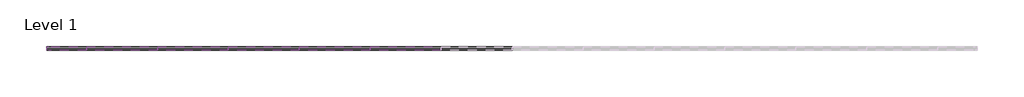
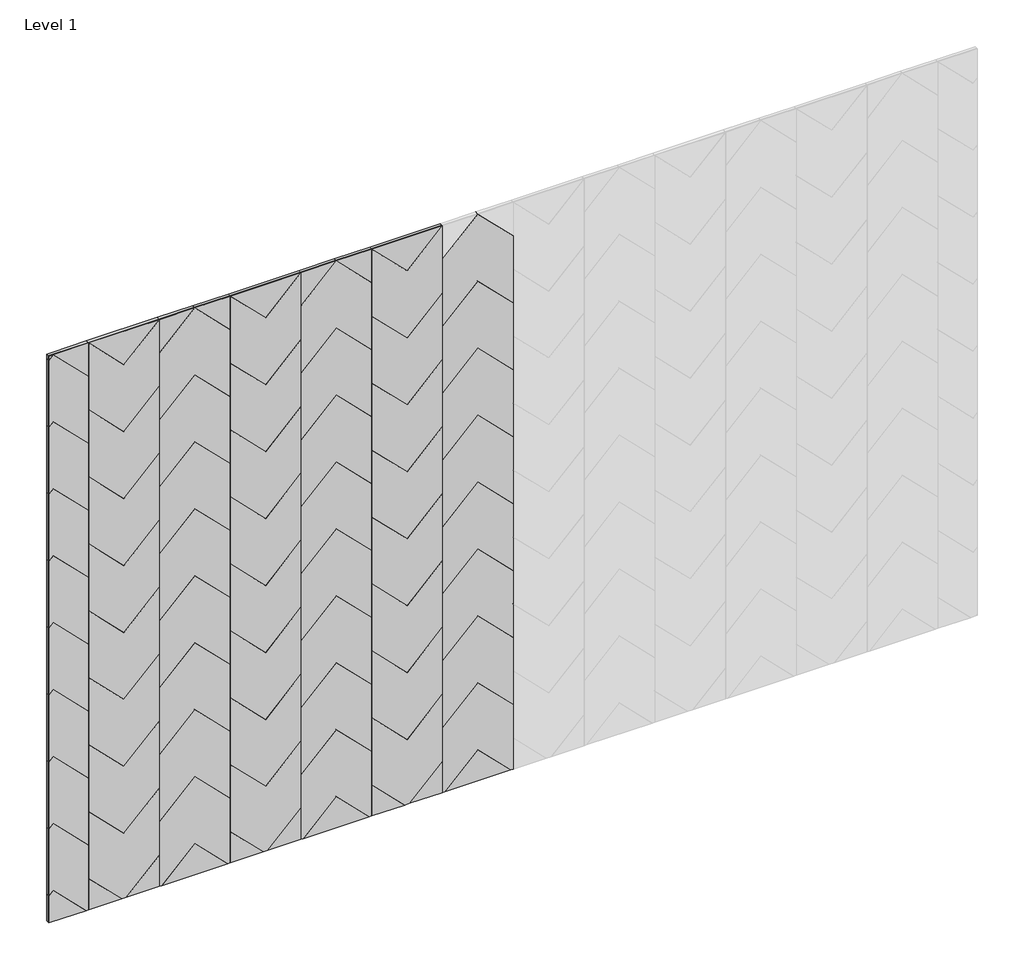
# One storey, part 1 of 2: 69 proxies.
"""IFC4 building model written with IfcOpenShell, lengths in millimetres."""

from ifc_helpers import new_model, si_unit, origin, place, context, project, spatial, transform, mapped, element, save
from components import dart_block_c844b8d5, dart_block_f40f4385, dart_block_8b6eca5b, dart_block_9fc4d5a6, dart_block_84291ee9, dart_block_d6e125e5, dart_block_31c125ed, dart_block_6d389e56, dart_block_7aee04b3, dart_block_84e837c1, dart_block_a08385c4

model = new_model("IFC4")

# Units and contexts
model_context = context("Model", 3, world=origin())
ifc_project = project(units=[si_unit("LENGTHUNIT", "METRE", prefix="MILLI")], contexts=[model_context])

# Site, building, storey
site = spatial("IfcSite", under=ifc_project)
building = spatial("IfcBuilding", under=site)
storey = spatial("IfcBuildingStorey", under=building, Name="Level 1", Elevation=0.0)

# Proxies
placement = place(None, origin())
dart_block_shape = dart_block_c844b8d5(model_context)
element("IfcBuildingElementProxy", 1, Name="FilzFelt_Dart_Block : Dart Block", ObjectType="FilzFelt_Dart_Block : Dart Block", at=placement, inside=storey, context=model_context, shape_type="MappedRepresentation", body=[
    mapped(dart_block_shape, transform((5246.9916002, -10315.1339335, 2763.5), x_axis=(1.0, 0.0, 0.0), y_axis=(0.0, 0.0, 1.0), z_axis=(0.0, -1.0, 0.0))),
])
dart_block_2_shape = dart_block_f40f4385(model_context)
element("IfcBuildingElementProxy", 2, Name="FilzFelt_Dart_Block : Dart Block", ObjectType="FilzFelt_Dart_Block : Dart Block", at=placement, inside=storey, context=model_context, shape_type="MappedRepresentation", body=[
    mapped(dart_block_2_shape, transform((5246.9916002, -10315.1339335, 2509.5), x_axis=(1.0, 0.0, 0.0), y_axis=(0.0, 0.0, 1.0), z_axis=(0.0, -1.0, 0.0))),
])
element("IfcBuildingElementProxy", 3, Name="FilzFelt_Dart_Block : Dart Block", ObjectType="FilzFelt_Dart_Block : Dart Block", at=placement, inside=storey, context=model_context, shape_type="MappedRepresentation", body=[
    mapped(dart_block_2_shape, transform((5246.9916002, -10315.1339335, 2001.5), x_axis=(1.0, 0.0, 0.0), y_axis=(0.0, 0.0, 1.0), z_axis=(0.0, -1.0, 0.0))),
])
element("IfcBuildingElementProxy", 4, Name="FilzFelt_Dart_Block : Dart Block", ObjectType="FilzFelt_Dart_Block : Dart Block", at=placement, inside=storey, context=model_context, shape_type="MappedRepresentation", body=[
    mapped(dart_block_2_shape, transform((5246.9916002, -10315.1339335, 2255.5), x_axis=(1.0, 0.0, 0.0), y_axis=(0.0, 0.0, 1.0), z_axis=(0.0, -1.0, 0.0))),
])
element("IfcBuildingElementProxy", 5, Name="FilzFelt_Dart_Block : Dart Block", ObjectType="FilzFelt_Dart_Block : Dart Block", at=placement, inside=storey, context=model_context, shape_type="MappedRepresentation", body=[
    mapped(dart_block_2_shape, transform((5246.9916002, -10315.1339335, 1493.5), x_axis=(1.0, 0.0, 0.0), y_axis=(0.0, 0.0, 1.0), z_axis=(0.0, -1.0, 0.0))),
])
element("IfcBuildingElementProxy", 6, Name="FilzFelt_Dart_Block : Dart Block", ObjectType="FilzFelt_Dart_Block : Dart Block", at=placement, inside=storey, context=model_context, shape_type="MappedRepresentation", body=[
    mapped(dart_block_2_shape, transform((5246.9916002, -10315.1339335, 985.5), x_axis=(1.0, 0.0, 0.0), y_axis=(0.0, 0.0, 1.0), z_axis=(0.0, -1.0, 0.0))),
])
element("IfcBuildingElementProxy", 7, Name="FilzFelt_Dart_Block : Dart Block", ObjectType="FilzFelt_Dart_Block : Dart Block", at=placement, inside=storey, context=model_context, shape_type="MappedRepresentation", body=[
    mapped(dart_block_2_shape, transform((5246.9916002, -10315.1339335, 1747.5), x_axis=(1.0, 0.0, 0.0), y_axis=(0.0, 0.0, 1.0), z_axis=(0.0, -1.0, 0.0))),
])
element("IfcBuildingElementProxy", 8, Name="FilzFelt_Dart_Block : Dart Block", ObjectType="FilzFelt_Dart_Block : Dart Block", at=placement, inside=storey, context=model_context, shape_type="MappedRepresentation", body=[
    mapped(dart_block_2_shape, transform((5246.9916002, -10315.1339335, 1239.5), x_axis=(1.0, 0.0, 0.0), y_axis=(0.0, 0.0, 1.0), z_axis=(0.0, -1.0, 0.0))),
])
dart_block_3_shape = dart_block_8b6eca5b(model_context)
element("IfcBuildingElementProxy", 9, Name="FilzFelt_Dart_Block : Dart Block", ObjectType="FilzFelt_Dart_Block : Dart Block", at=placement, inside=storey, context=model_context, shape_type="MappedRepresentation", body=[
    mapped(dart_block_3_shape, transform((5246.9916002, -10315.1339335, 731.5), x_axis=(1.0, 0.0, 0.0), y_axis=(0.0, 0.0, 1.0), z_axis=(0.0, -1.0, 0.0))),
])
dart_block_4_shape = dart_block_9fc4d5a6(model_context)
element("IfcBuildingElementProxy", 10, Name="FilzFelt_Dart_Block : Dart Block", ObjectType="FilzFelt_Dart_Block : Dart Block", at=placement, inside=storey, context=model_context, shape_type="MappedRepresentation", body=[
    mapped(dart_block_4_shape, transform((5246.9916002, -10315.1339335, 477.5), x_axis=(1.0, 0.0, 0.0), y_axis=(0.0, 0.0, 1.0), z_axis=(0.0, -1.0, 0.0))),
])
dart_block_5_shape = dart_block_84291ee9(model_context)
element("IfcBuildingElementProxy", 11, Name="FilzFelt_Dart_Block : Dart Block", ObjectType="FilzFelt_Dart_Block : Dart Block", at=placement, inside=storey, context=model_context, shape_type="MappedRepresentation", body=[
    mapped(dart_block_5_shape, transform((5500.9916002, -10315.1339335, 477.5), x_axis=(-1.0, 0.0, 0.0), y_axis=(0.0, 0.0, -1.0), z_axis=(0.0, -1.0, 0.0))),
])
dart_block_6_shape = dart_block_d6e125e5(model_context)
element("IfcBuildingElementProxy", 12, Name="FilzFelt_Dart_Block : Dart Block", ObjectType="FilzFelt_Dart_Block : Dart Block", at=placement, inside=storey, context=model_context, shape_type="MappedRepresentation", body=[
    mapped(dart_block_6_shape, transform((5500.9916002, -10315.1339335, 731.5), x_axis=(-1.0, 0.0, 0.0), y_axis=(0.0, 0.0, -1.0), z_axis=(0.0, -1.0, 0.0))),
])
element("IfcBuildingElementProxy", 13, Name="FilzFelt_Dart_Block : Dart Block", ObjectType="FilzFelt_Dart_Block : Dart Block", at=placement, inside=storey, context=model_context, shape_type="MappedRepresentation", body=[
    mapped(dart_block_6_shape, transform((6516.9916002, -10315.1339335, 731.5), x_axis=(-1.0, 0.0, 0.0), y_axis=(0.0, 0.0, -1.0), z_axis=(0.0, -1.0, 0.0))),
])
dart_block_7_shape = dart_block_31c125ed(model_context)
element("IfcBuildingElementProxy", 14, Name="FilzFelt_Dart_Block : Dart Block", ObjectType="FilzFelt_Dart_Block : Dart Block", at=placement, inside=storey, context=model_context, shape_type="MappedRepresentation", body=[
    mapped(dart_block_7_shape, transform((5500.9916002, -10315.1339335, 985.5), x_axis=(-1.0, 0.0, 0.0), y_axis=(0.0, 0.0, -1.0), z_axis=(0.0, -1.0, 0.0))),
])
element("IfcBuildingElementProxy", 15, Name="FilzFelt_Dart_Block : Dart Block", ObjectType="FilzFelt_Dart_Block : Dart Block", at=placement, inside=storey, context=model_context, shape_type="MappedRepresentation", body=[
    mapped(dart_block_7_shape, transform((5500.9916002, -10315.1339335, 1493.5), x_axis=(-1.0, 0.0, 0.0), y_axis=(0.0, 0.0, -1.0), z_axis=(0.0, -1.0, 0.0))),
])
element("IfcBuildingElementProxy", 16, Name="FilzFelt_Dart_Block : Dart Block", ObjectType="FilzFelt_Dart_Block : Dart Block", at=placement, inside=storey, context=model_context, shape_type="MappedRepresentation", body=[
    mapped(dart_block_7_shape, transform((5500.9916002, -10315.1339335, 2001.5), x_axis=(-1.0, 0.0, 0.0), y_axis=(0.0, 0.0, -1.0), z_axis=(0.0, -1.0, 0.0))),
])
element("IfcBuildingElementProxy", 17, Name="FilzFelt_Dart_Block : Dart Block", ObjectType="FilzFelt_Dart_Block : Dart Block", at=placement, inside=storey, context=model_context, shape_type="MappedRepresentation", body=[
    mapped(dart_block_7_shape, transform((5754.9916002, -10315.1339335, 2509.5), x_axis=(1.0, 0.0, 0.0), y_axis=(0.0, 0.0, 1.0), z_axis=(0.0, -1.0, 0.0))),
])
element("IfcBuildingElementProxy", 18, Name="FilzFelt_Dart_Block : Dart Block", ObjectType="FilzFelt_Dart_Block : Dart Block", at=placement, inside=storey, context=model_context, shape_type="MappedRepresentation", body=[
    mapped(dart_block_7_shape, transform((5754.9916002, -10315.1339335, 1747.5), x_axis=(1.0, 0.0, 0.0), y_axis=(0.0, 0.0, 1.0), z_axis=(0.0, -1.0, 0.0))),
])
element("IfcBuildingElementProxy", 19, Name="FilzFelt_Dart_Block : Dart Block", ObjectType="FilzFelt_Dart_Block : Dart Block", at=placement, inside=storey, context=model_context, shape_type="MappedRepresentation", body=[
    mapped(dart_block_7_shape, transform((5754.9916002, -10315.1339335, 985.5), x_axis=(1.0, 0.0, 0.0), y_axis=(0.0, 0.0, 1.0), z_axis=(0.0, -1.0, 0.0))),
])
element("IfcBuildingElementProxy", 20, Name="FilzFelt_Dart_Block : Dart Block", ObjectType="FilzFelt_Dart_Block : Dart Block", at=placement, inside=storey, context=model_context, shape_type="MappedRepresentation", body=[
    mapped(dart_block_7_shape, transform((6008.9916002, -10315.1339335, 1239.5), x_axis=(-1.0, 0.0, 0.0), y_axis=(0.0, 0.0, -1.0), z_axis=(0.0, -1.0, 0.0))),
])
element("IfcBuildingElementProxy", 21, Name="FilzFelt_Dart_Block : Dart Block", ObjectType="FilzFelt_Dart_Block : Dart Block", at=placement, inside=storey, context=model_context, shape_type="MappedRepresentation", body=[
    mapped(dart_block_7_shape, transform((6008.9916002, -10315.1339335, 1747.5), x_axis=(-1.0, 0.0, 0.0), y_axis=(0.0, 0.0, -1.0), z_axis=(0.0, -1.0, 0.0))),
])
element("IfcBuildingElementProxy", 22, Name="FilzFelt_Dart_Block : Dart Block", ObjectType="FilzFelt_Dart_Block : Dart Block", at=placement, inside=storey, context=model_context, shape_type="MappedRepresentation", body=[
    mapped(dart_block_7_shape, transform((6008.9916002, -10315.1339335, 2509.5), x_axis=(-1.0, 0.0, 0.0), y_axis=(0.0, 0.0, -1.0), z_axis=(0.0, -1.0, 0.0))),
])
element("IfcBuildingElementProxy", 23, Name="FilzFelt_Dart_Block : Dart Block", ObjectType="FilzFelt_Dart_Block : Dart Block", at=placement, inside=storey, context=model_context, shape_type="MappedRepresentation", body=[
    mapped(dart_block_7_shape, transform((6262.9916002, -10315.1339335, 2255.5), x_axis=(1.0, 0.0, 0.0), y_axis=(0.0, 0.0, 1.0), z_axis=(0.0, -1.0, 0.0))),
])
element("IfcBuildingElementProxy", 24, Name="FilzFelt_Dart_Block : Dart Block", ObjectType="FilzFelt_Dart_Block : Dart Block", at=placement, inside=storey, context=model_context, shape_type="MappedRepresentation", body=[
    mapped(dart_block_7_shape, transform((6262.9916002, -10315.1339335, 1493.5), x_axis=(1.0, 0.0, 0.0), y_axis=(0.0, 0.0, 1.0), z_axis=(0.0, -1.0, 0.0))),
])
element("IfcBuildingElementProxy", 25, Name="FilzFelt_Dart_Block : Dart Block", ObjectType="FilzFelt_Dart_Block : Dart Block", at=placement, inside=storey, context=model_context, shape_type="MappedRepresentation", body=[
    mapped(dart_block_7_shape, transform((6262.9916002, -10315.1339335, 985.5), x_axis=(1.0, 0.0, 0.0), y_axis=(0.0, 0.0, 1.0), z_axis=(0.0, -1.0, 0.0))),
])
element("IfcBuildingElementProxy", 26, Name="FilzFelt_Dart_Block : Dart Block", ObjectType="FilzFelt_Dart_Block : Dart Block", at=placement, inside=storey, context=model_context, shape_type="MappedRepresentation", body=[
    mapped(dart_block_7_shape, transform((6516.9916002, -10315.1339335, 2509.5), x_axis=(-1.0, 0.0, 0.0), y_axis=(0.0, 0.0, -1.0), z_axis=(0.0, -1.0, 0.0))),
])
element("IfcBuildingElementProxy", 27, Name="FilzFelt_Dart_Block : Dart Block", ObjectType="FilzFelt_Dart_Block : Dart Block", at=placement, inside=storey, context=model_context, shape_type="MappedRepresentation", body=[
    mapped(dart_block_7_shape, transform((6516.9916002, -10315.1339335, 985.5), x_axis=(-1.0, 0.0, 0.0), y_axis=(0.0, 0.0, -1.0), z_axis=(0.0, -1.0, 0.0))),
])
element("IfcBuildingElementProxy", 28, Name="FilzFelt_Dart_Block : Dart Block", ObjectType="FilzFelt_Dart_Block : Dart Block", at=placement, inside=storey, context=model_context, shape_type="MappedRepresentation", body=[
    mapped(dart_block_7_shape, transform((6516.9916002, -10315.1339335, 1747.5), x_axis=(-1.0, 0.0, 0.0), y_axis=(0.0, 0.0, -1.0), z_axis=(0.0, -1.0, 0.0))),
])
element("IfcBuildingElementProxy", 29, Name="FilzFelt_Dart_Block : Dart Block", ObjectType="FilzFelt_Dart_Block : Dart Block", at=placement, inside=storey, context=model_context, shape_type="MappedRepresentation", body=[
    mapped(dart_block_7_shape, transform((6770.9916002, -10315.1339335, 1747.5), x_axis=(1.0, 0.0, 0.0), y_axis=(0.0, 0.0, 1.0), z_axis=(0.0, -1.0, 0.0))),
])
element("IfcBuildingElementProxy", 30, Name="FilzFelt_Dart_Block : Dart Block", ObjectType="FilzFelt_Dart_Block : Dart Block", at=placement, inside=storey, context=model_context, shape_type="MappedRepresentation", body=[
    mapped(dart_block_7_shape, transform((6770.9916002, -10315.1339335, 1239.5), x_axis=(1.0, 0.0, 0.0), y_axis=(0.0, 0.0, 1.0), z_axis=(0.0, -1.0, 0.0))),
])
element("IfcBuildingElementProxy", 31, Name="FilzFelt_Dart_Block : Dart Block", ObjectType="FilzFelt_Dart_Block : Dart Block", at=placement, inside=storey, context=model_context, shape_type="MappedRepresentation", body=[
    mapped(dart_block_7_shape, transform((5500.9916002, -10315.1339335, 1239.5), x_axis=(-1.0, 0.0, 0.0), y_axis=(0.0, 0.0, -1.0), z_axis=(0.0, -1.0, 0.0))),
])
element("IfcBuildingElementProxy", 32, Name="FilzFelt_Dart_Block : Dart Block", ObjectType="FilzFelt_Dart_Block : Dart Block", at=placement, inside=storey, context=model_context, shape_type="MappedRepresentation", body=[
    mapped(dart_block_7_shape, transform((5500.9916002, -10315.1339335, 1747.5), x_axis=(-1.0, 0.0, 0.0), y_axis=(0.0, 0.0, -1.0), z_axis=(0.0, -1.0, 0.0))),
])
element("IfcBuildingElementProxy", 33, Name="FilzFelt_Dart_Block : Dart Block", ObjectType="FilzFelt_Dart_Block : Dart Block", at=placement, inside=storey, context=model_context, shape_type="MappedRepresentation", body=[
    mapped(dart_block_7_shape, transform((5500.9916002, -10315.1339335, 2255.5), x_axis=(-1.0, 0.0, 0.0), y_axis=(0.0, 0.0, -1.0), z_axis=(0.0, -1.0, 0.0))),
])
element("IfcBuildingElementProxy", 34, Name="FilzFelt_Dart_Block : Dart Block", ObjectType="FilzFelt_Dart_Block : Dart Block", at=placement, inside=storey, context=model_context, shape_type="MappedRepresentation", body=[
    mapped(dart_block_7_shape, transform((5754.9916002, -10315.1339335, 2255.5), x_axis=(1.0, 0.0, 0.0), y_axis=(0.0, 0.0, 1.0), z_axis=(0.0, -1.0, 0.0))),
])
element("IfcBuildingElementProxy", 35, Name="FilzFelt_Dart_Block : Dart Block", ObjectType="FilzFelt_Dart_Block : Dart Block", at=placement, inside=storey, context=model_context, shape_type="MappedRepresentation", body=[
    mapped(dart_block_7_shape, transform((5754.9916002, -10315.1339335, 1239.5), x_axis=(1.0, 0.0, 0.0), y_axis=(0.0, 0.0, 1.0), z_axis=(0.0, -1.0, 0.0))),
])
element("IfcBuildingElementProxy", 36, Name="FilzFelt_Dart_Block : Dart Block", ObjectType="FilzFelt_Dart_Block : Dart Block", at=placement, inside=storey, context=model_context, shape_type="MappedRepresentation", body=[
    mapped(dart_block_7_shape, transform((6008.9916002, -10315.1339335, 1493.5), x_axis=(-1.0, 0.0, 0.0), y_axis=(0.0, 0.0, -1.0), z_axis=(0.0, -1.0, 0.0))),
])
element("IfcBuildingElementProxy", 37, Name="FilzFelt_Dart_Block : Dart Block", ObjectType="FilzFelt_Dart_Block : Dart Block", at=placement, inside=storey, context=model_context, shape_type="MappedRepresentation", body=[
    mapped(dart_block_7_shape, transform((6008.9916002, -10315.1339335, 2001.5), x_axis=(-1.0, 0.0, 0.0), y_axis=(0.0, 0.0, -1.0), z_axis=(0.0, -1.0, 0.0))),
])
element("IfcBuildingElementProxy", 38, Name="FilzFelt_Dart_Block : Dart Block", ObjectType="FilzFelt_Dart_Block : Dart Block", at=placement, inside=storey, context=model_context, shape_type="MappedRepresentation", body=[
    mapped(dart_block_7_shape, transform((6262.9916002, -10315.1339335, 2001.5), x_axis=(1.0, 0.0, 0.0), y_axis=(0.0, 0.0, 1.0), z_axis=(0.0, -1.0, 0.0))),
])
element("IfcBuildingElementProxy", 39, Name="FilzFelt_Dart_Block : Dart Block", ObjectType="FilzFelt_Dart_Block : Dart Block", at=placement, inside=storey, context=model_context, shape_type="MappedRepresentation", body=[
    mapped(dart_block_7_shape, transform((6262.9916002, -10315.1339335, 1239.5), x_axis=(1.0, 0.0, 0.0), y_axis=(0.0, 0.0, 1.0), z_axis=(0.0, -1.0, 0.0))),
])
element("IfcBuildingElementProxy", 40, Name="FilzFelt_Dart_Block : Dart Block", ObjectType="FilzFelt_Dart_Block : Dart Block", at=placement, inside=storey, context=model_context, shape_type="MappedRepresentation", body=[
    mapped(dart_block_7_shape, transform((6516.9916002, -10315.1339335, 1493.5), x_axis=(-1.0, 0.0, 0.0), y_axis=(0.0, 0.0, -1.0), z_axis=(0.0, -1.0, 0.0))),
])
element("IfcBuildingElementProxy", 41, Name="FilzFelt_Dart_Block : Dart Block", ObjectType="FilzFelt_Dart_Block : Dart Block", at=placement, inside=storey, context=model_context, shape_type="MappedRepresentation", body=[
    mapped(dart_block_7_shape, transform((6516.9916002, -10315.1339335, 2255.5), x_axis=(-1.0, 0.0, 0.0), y_axis=(0.0, 0.0, -1.0), z_axis=(0.0, -1.0, 0.0))),
])
element("IfcBuildingElementProxy", 42, Name="FilzFelt_Dart_Block : Dart Block", ObjectType="FilzFelt_Dart_Block : Dart Block", at=placement, inside=storey, context=model_context, shape_type="MappedRepresentation", body=[
    mapped(dart_block_7_shape, transform((6770.9916002, -10315.1339335, 2255.5), x_axis=(1.0, 0.0, 0.0), y_axis=(0.0, 0.0, 1.0), z_axis=(0.0, -1.0, 0.0))),
])
element("IfcBuildingElementProxy", 43, Name="FilzFelt_Dart_Block : Dart Block", ObjectType="FilzFelt_Dart_Block : Dart Block", at=placement, inside=storey, context=model_context, shape_type="MappedRepresentation", body=[
    mapped(dart_block_7_shape, transform((6770.9916002, -10315.1339335, 1493.5), x_axis=(1.0, 0.0, 0.0), y_axis=(0.0, 0.0, 1.0), z_axis=(0.0, -1.0, 0.0))),
])
element("IfcBuildingElementProxy", 44, Name="FilzFelt_Dart_Block : Dart Block", ObjectType="FilzFelt_Dart_Block : Dart Block", at=placement, inside=storey, context=model_context, shape_type="MappedRepresentation", body=[
    mapped(dart_block_7_shape, transform((5500.9916002, -10315.1339335, 2509.5), x_axis=(-1.0, 0.0, 0.0), y_axis=(0.0, 0.0, -1.0), z_axis=(0.0, -1.0, 0.0))),
])
element("IfcBuildingElementProxy", 45, Name="FilzFelt_Dart_Block : Dart Block", ObjectType="FilzFelt_Dart_Block : Dart Block", at=placement, inside=storey, context=model_context, shape_type="MappedRepresentation", body=[
    mapped(dart_block_7_shape, transform((5754.9916002, -10315.1339335, 2001.5), x_axis=(1.0, 0.0, 0.0), y_axis=(0.0, 0.0, 1.0), z_axis=(0.0, -1.0, 0.0))),
])
element("IfcBuildingElementProxy", 46, Name="FilzFelt_Dart_Block : Dart Block", ObjectType="FilzFelt_Dart_Block : Dart Block", at=placement, inside=storey, context=model_context, shape_type="MappedRepresentation", body=[
    mapped(dart_block_7_shape, transform((5754.9916002, -10315.1339335, 1493.5), x_axis=(1.0, 0.0, 0.0), y_axis=(0.0, 0.0, 1.0), z_axis=(0.0, -1.0, 0.0))),
])
element("IfcBuildingElementProxy", 47, Name="FilzFelt_Dart_Block : Dart Block", ObjectType="FilzFelt_Dart_Block : Dart Block", at=placement, inside=storey, context=model_context, shape_type="MappedRepresentation", body=[
    mapped(dart_block_7_shape, transform((6008.9916002, -10315.1339335, 985.5), x_axis=(-1.0, 0.0, 0.0), y_axis=(0.0, 0.0, -1.0), z_axis=(0.0, -1.0, 0.0))),
])
element("IfcBuildingElementProxy", 48, Name="FilzFelt_Dart_Block : Dart Block", ObjectType="FilzFelt_Dart_Block : Dart Block", at=placement, inside=storey, context=model_context, shape_type="MappedRepresentation", body=[
    mapped(dart_block_7_shape, transform((6008.9916002, -10315.1339335, 2255.5), x_axis=(-1.0, 0.0, 0.0), y_axis=(0.0, 0.0, -1.0), z_axis=(0.0, -1.0, 0.0))),
])
element("IfcBuildingElementProxy", 49, Name="FilzFelt_Dart_Block : Dart Block", ObjectType="FilzFelt_Dart_Block : Dart Block", at=placement, inside=storey, context=model_context, shape_type="MappedRepresentation", body=[
    mapped(dart_block_7_shape, transform((6262.9916002, -10315.1339335, 2509.5), x_axis=(1.0, 0.0, 0.0), y_axis=(0.0, 0.0, 1.0), z_axis=(0.0, -1.0, 0.0))),
])
element("IfcBuildingElementProxy", 50, Name="FilzFelt_Dart_Block : Dart Block", ObjectType="FilzFelt_Dart_Block : Dart Block", at=placement, inside=storey, context=model_context, shape_type="MappedRepresentation", body=[
    mapped(dart_block_7_shape, transform((6262.9916002, -10315.1339335, 1747.5), x_axis=(1.0, 0.0, 0.0), y_axis=(0.0, 0.0, 1.0), z_axis=(0.0, -1.0, 0.0))),
])
element("IfcBuildingElementProxy", 51, Name="FilzFelt_Dart_Block : Dart Block", ObjectType="FilzFelt_Dart_Block : Dart Block", at=placement, inside=storey, context=model_context, shape_type="MappedRepresentation", body=[
    mapped(dart_block_7_shape, transform((6516.9916002, -10315.1339335, 1239.5), x_axis=(-1.0, 0.0, 0.0), y_axis=(0.0, 0.0, -1.0), z_axis=(0.0, -1.0, 0.0))),
])
element("IfcBuildingElementProxy", 52, Name="FilzFelt_Dart_Block : Dart Block", ObjectType="FilzFelt_Dart_Block : Dart Block", at=placement, inside=storey, context=model_context, shape_type="MappedRepresentation", body=[
    mapped(dart_block_7_shape, transform((6516.9916002, -10315.1339335, 2001.5), x_axis=(-1.0, 0.0, 0.0), y_axis=(0.0, 0.0, -1.0), z_axis=(0.0, -1.0, 0.0))),
])
element("IfcBuildingElementProxy", 53, Name="FilzFelt_Dart_Block : Dart Block", ObjectType="FilzFelt_Dart_Block : Dart Block", at=placement, inside=storey, context=model_context, shape_type="MappedRepresentation", body=[
    mapped(dart_block_7_shape, transform((6770.9916002, -10315.1339335, 2509.5), x_axis=(1.0, 0.0, 0.0), y_axis=(0.0, 0.0, 1.0), z_axis=(0.0, -1.0, 0.0))),
])
element("IfcBuildingElementProxy", 54, Name="FilzFelt_Dart_Block : Dart Block", ObjectType="FilzFelt_Dart_Block : Dart Block", at=placement, inside=storey, context=model_context, shape_type="MappedRepresentation", body=[
    mapped(dart_block_7_shape, transform((6770.9916002, -10315.1339335, 2001.5), x_axis=(1.0, 0.0, 0.0), y_axis=(0.0, 0.0, 1.0), z_axis=(0.0, -1.0, 0.0))),
])
element("IfcBuildingElementProxy", 55, Name="FilzFelt_Dart_Block : Dart Block", ObjectType="FilzFelt_Dart_Block : Dart Block", at=placement, inside=storey, context=model_context, shape_type="MappedRepresentation", body=[
    mapped(dart_block_7_shape, transform((6770.9916002, -10315.1339335, 985.5), x_axis=(1.0, 0.0, 0.0), y_axis=(0.0, 0.0, 1.0), z_axis=(0.0, -1.0, 0.0))),
])
dart_block_8_shape = dart_block_6d389e56(model_context)
element("IfcBuildingElementProxy", 56, Name="FilzFelt_Dart_Block : Dart Block", ObjectType="FilzFelt_Dart_Block : Dart Block", at=placement, inside=storey, context=model_context, shape_type="MappedRepresentation", body=[
    mapped(dart_block_8_shape, transform((5500.9916002, -10315.1339335, 2763.5), x_axis=(-1.0, 0.0, 0.0), y_axis=(0.0, 0.0, -1.0), z_axis=(0.0, -1.0, 0.0))),
])
element("IfcBuildingElementProxy", 57, Name="FilzFelt_Dart_Block : Dart Block", ObjectType="FilzFelt_Dart_Block : Dart Block", at=placement, inside=storey, context=model_context, shape_type="MappedRepresentation", body=[
    mapped(dart_block_8_shape, transform((6008.9916002, -10315.1339335, 2763.5), x_axis=(-1.0, 0.0, 0.0), y_axis=(0.0, 0.0, -1.0), z_axis=(0.0, -1.0, 0.0))),
])
element("IfcBuildingElementProxy", 58, Name="FilzFelt_Dart_Block : Dart Block", ObjectType="FilzFelt_Dart_Block : Dart Block", at=placement, inside=storey, context=model_context, shape_type="MappedRepresentation", body=[
    mapped(dart_block_8_shape, transform((6516.9916002, -10315.1339335, 2763.5), x_axis=(-1.0, 0.0, 0.0), y_axis=(0.0, 0.0, -1.0), z_axis=(0.0, -1.0, 0.0))),
])
dart_block_9_shape = dart_block_7aee04b3(model_context)
element("IfcBuildingElementProxy", 59, Name="FilzFelt_Dart_Block : Dart Block", ObjectType="FilzFelt_Dart_Block : Dart Block", at=placement, inside=storey, context=model_context, shape_type="MappedRepresentation", body=[
    mapped(dart_block_9_shape, transform((5754.9916002, -10315.1339335, 477.5), x_axis=(1.0, 0.0, 0.0), y_axis=(0.0, 0.0, 1.0), z_axis=(0.0, -1.0, 0.0))),
])
element("IfcBuildingElementProxy", 60, Name="FilzFelt_Dart_Block : Dart Block", ObjectType="FilzFelt_Dart_Block : Dart Block", at=placement, inside=storey, context=model_context, shape_type="MappedRepresentation", body=[
    mapped(dart_block_9_shape, transform((6770.9916002, -10315.1339335, 477.5), x_axis=(1.0, 0.0, 0.0), y_axis=(0.0, 0.0, 1.0), z_axis=(0.0, -1.0, 0.0))),
])
dart_block_10_shape = dart_block_84e837c1(model_context)
element("IfcBuildingElementProxy", 61, Name="FilzFelt_Dart_Block : Dart Block", ObjectType="FilzFelt_Dart_Block : Dart Block", at=placement, inside=storey, context=model_context, shape_type="MappedRepresentation", body=[
    mapped(dart_block_10_shape, transform((5754.9916002, -10315.1339335, 2763.5), x_axis=(1.0, 0.0, 0.0), y_axis=(0.0, 0.0, 1.0), z_axis=(0.0, -1.0, 0.0))),
])
element("IfcBuildingElementProxy", 62, Name="FilzFelt_Dart_Block : Dart Block", ObjectType="FilzFelt_Dart_Block : Dart Block", at=placement, inside=storey, context=model_context, shape_type="MappedRepresentation", body=[
    mapped(dart_block_10_shape, transform((6262.9916002, -10315.1339335, 2763.5), x_axis=(1.0, 0.0, 0.0), y_axis=(0.0, 0.0, 1.0), z_axis=(0.0, -1.0, 0.0))),
])
element("IfcBuildingElementProxy", 63, Name="FilzFelt_Dart_Block : Dart Block", ObjectType="FilzFelt_Dart_Block : Dart Block", at=placement, inside=storey, context=model_context, shape_type="MappedRepresentation", body=[
    mapped(dart_block_6_shape, transform((6008.9916002, -10315.1339335, 731.5), x_axis=(-1.0, 0.0, 0.0), y_axis=(0.0, 0.0, -1.0), z_axis=(0.0, -1.0, 0.0))),
])
dart_block_11_shape = dart_block_a08385c4(model_context)
element("IfcBuildingElementProxy", 64, Name="FilzFelt_Dart_Block : Dart Block", ObjectType="FilzFelt_Dart_Block : Dart Block", at=placement, inside=storey, context=model_context, shape_type="MappedRepresentation", body=[
    mapped(dart_block_11_shape, transform((6262.9916002, -10315.1339335, 731.5), x_axis=(1.0, 0.0, 0.0), y_axis=(0.0, 0.0, 1.0), z_axis=(0.0, -1.0, 0.0))),
])
element("IfcBuildingElementProxy", 65, Name="FilzFelt_Dart_Block : Dart Block", ObjectType="FilzFelt_Dart_Block : Dart Block", at=placement, inside=storey, context=model_context, shape_type="MappedRepresentation", body=[
    mapped(dart_block_11_shape, transform((6770.9916002, -10315.1339335, 731.5), x_axis=(1.0, 0.0, 0.0), y_axis=(0.0, 0.0, 1.0), z_axis=(0.0, -1.0, 0.0))),
])
element("IfcBuildingElementProxy", 66, Name="FilzFelt_Dart_Block : Dart Block", ObjectType="FilzFelt_Dart_Block : Dart Block", at=placement, inside=storey, context=model_context, shape_type="MappedRepresentation", body=[
    mapped(dart_block_5_shape, transform((6516.9916002, -10315.1339335, 477.5), x_axis=(-1.0, 0.0, 0.0), y_axis=(0.0, 0.0, -1.0), z_axis=(0.0, -1.0, 0.0))),
])
element("IfcBuildingElementProxy", 67, Name="FilzFelt_Dart_Block : Dart Block", ObjectType="FilzFelt_Dart_Block : Dart Block", at=placement, inside=storey, context=model_context, shape_type="MappedRepresentation", body=[
    mapped(dart_block_11_shape, transform((5754.9916002, -10315.1339335, 731.5), x_axis=(1.0, 0.0, 0.0), y_axis=(0.0, 0.0, 1.0), z_axis=(0.0, -1.0, 0.0))),
])
element("IfcBuildingElementProxy", 68, Name="FilzFelt_Dart_Block : Dart Block", ObjectType="FilzFelt_Dart_Block : Dart Block", at=placement, inside=storey, context=model_context, shape_type="MappedRepresentation", body=[
    mapped(dart_block_5_shape, transform((6008.9916002, -10315.1339335, 477.5), x_axis=(-1.0, 0.0, 0.0), y_axis=(0.0, 0.0, -1.0), z_axis=(0.0, -1.0, 0.0))),
])
element("IfcBuildingElementProxy", 69, Name="FilzFelt_Dart_Block : Dart Block", ObjectType="FilzFelt_Dart_Block : Dart Block", at=placement, inside=storey, context=model_context, shape_type="MappedRepresentation", body=[
    mapped(dart_block_9_shape, transform((6262.9916002, -10315.1339335, 477.5), x_axis=(1.0, 0.0, 0.0), y_axis=(0.0, 0.0, 1.0), z_axis=(0.0, -1.0, 0.0))),
])

save(model, "model.ifc")
